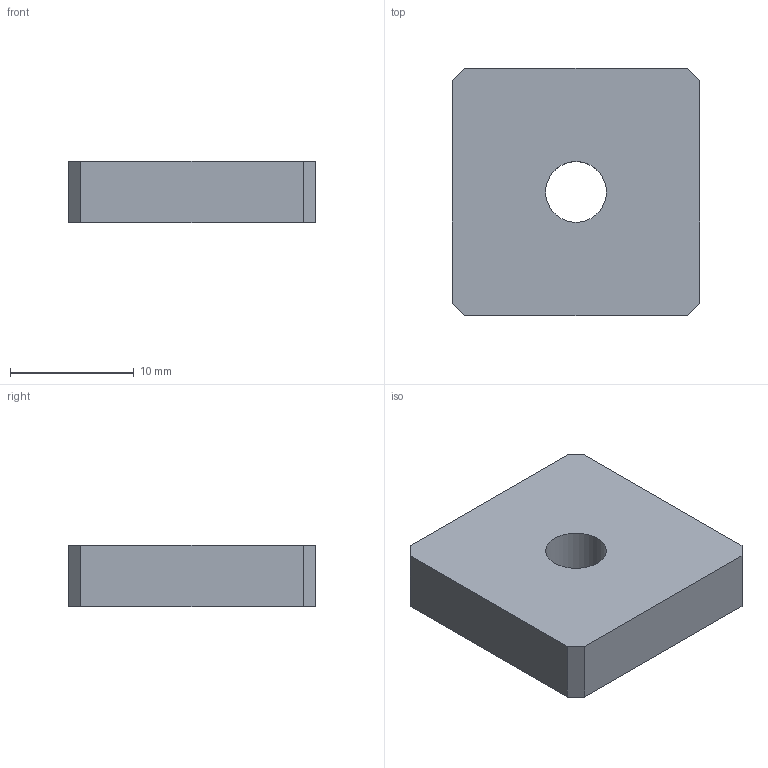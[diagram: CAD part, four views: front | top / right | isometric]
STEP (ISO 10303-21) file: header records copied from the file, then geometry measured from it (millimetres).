
FILE_DESCRIPTION(/* description */ ('SQUARE NUT M6'),/* implementation_level */ '2;1');
FILE_NAME(/* name */ '500-4370.stp',/* time_stamp */ '2022-09-16T10:18:00+02:00',/* author */ ('PL'),/* organization */ ('CARRYLINE'),/* preprocessor_version */ 'ST-DEVELOPER v19.2',/* originating_system */ 'Autodesk Inventor 2023',/* authorisation */ '');
FILE_SCHEMA (('AUTOMOTIVE_DESIGN { 1 0 10303 214 3 1 1 }'));
Length unit declared in the file: millimetre
Products named in the file (1): 500-4370
Bounding box: 20 x 20 x 5 mm (x, y, z)
Volume: 1895.1 mm3; surface area: 1223.5 mm2
Topology: 1 solids, 1 shells, 11 faces, 27 edges, 18 vertices
Faces by surface type: plane 10, cylinder 1
Full cylindrical faces by diameter (mm): 4.917 x1
Entity records: 370 total; most frequent: CARTESIAN_POINT 57, ORIENTED_EDGE 54, DIRECTION 53, EDGE_CURVE 27, LINE 25, VECTOR 25, VERTEX_POINT 18, AXIS2_PLACEMENT_3D 14
